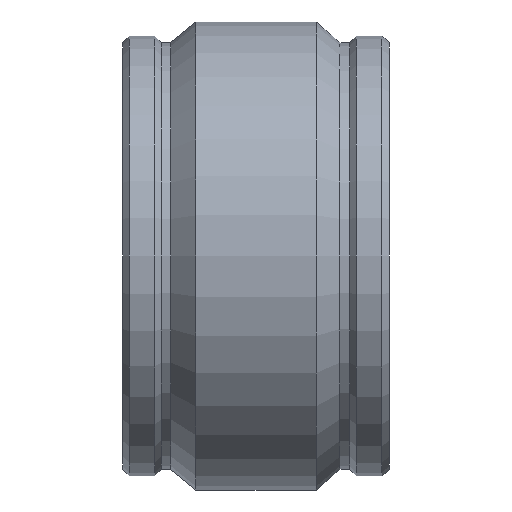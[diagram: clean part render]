
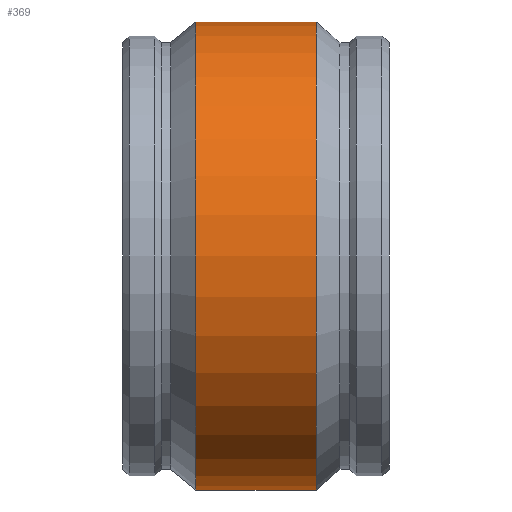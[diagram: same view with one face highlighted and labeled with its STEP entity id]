
A CAD part, front view. The second image highlights one B-rep face of the part: STEP entity #369.
In plain terms, the highlighted cylindrical face has radius 271.78 mm (diameter 543.56 mm), a full revolution.
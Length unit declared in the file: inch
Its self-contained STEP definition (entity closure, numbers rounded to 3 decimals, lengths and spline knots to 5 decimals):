
#17=CYLINDRICAL_SURFACE('',#423,10.7);
#28=LINE('',#646,#44);
#44=VECTOR('',#516,10.7);
#73=FACE_OUTER_BOUND('',#94,.T.);
#94=EDGE_LOOP('',(#281,#282,#283,#284,#285,#286));
#123=CIRCLE('',#421,10.7);
#124=CIRCLE('',#422,10.7);
#125=CIRCLE('',#424,10.7);
#126=CIRCLE('',#425,10.7);
#163=VERTEX_POINT('',#636);
#164=VERTEX_POINT('',#637);
#165=VERTEX_POINT('',#642);
#166=VERTEX_POINT('',#643);
#207=EDGE_CURVE('',#163,#164,#123,.T.);
#208=EDGE_CURVE('',#164,#163,#124,.T.);
#210=EDGE_CURVE('',#165,#166,#125,.T.);
#211=EDGE_CURVE('',#166,#165,#126,.T.);
#212=EDGE_CURVE('',#166,#164,#28,.T.);
#281=ORIENTED_EDGE('',*,*,#210,.F.);
#282=ORIENTED_EDGE('',*,*,#211,.F.);
#283=ORIENTED_EDGE('',*,*,#212,.T.);
#284=ORIENTED_EDGE('',*,*,#208,.T.);
#285=ORIENTED_EDGE('',*,*,#207,.T.);
#286=ORIENTED_EDGE('',*,*,#212,.F.);
#369=ADVANCED_FACE('',(#73),#17,.T.);
#421=AXIS2_PLACEMENT_3D('',#638,#505,#506);
#422=AXIS2_PLACEMENT_3D('',#639,#507,#508);
#423=AXIS2_PLACEMENT_3D('',#641,#510,#511);
#424=AXIS2_PLACEMENT_3D('',#644,#512,#513);
#425=AXIS2_PLACEMENT_3D('',#645,#514,#515);
#505=DIRECTION('center_axis',(1.,0.,0.));
#506=DIRECTION('ref_axis',(0.,0.,-1.));
#507=DIRECTION('center_axis',(1.,0.,0.));
#508=DIRECTION('ref_axis',(0.,0.,-1.));
#510=DIRECTION('center_axis',(1.,0.,0.));
#511=DIRECTION('ref_axis',(0.,1.,0.));
#512=DIRECTION('center_axis',(1.,0.,0.));
#513=DIRECTION('ref_axis',(0.,0.,-1.));
#514=DIRECTION('center_axis',(1.,0.,0.));
#515=DIRECTION('ref_axis',(0.,0.,-1.));
#516=DIRECTION('',(-1.,0.,0.));
#636=CARTESIAN_POINT('',(-2.745,10.7,0.));
#637=CARTESIAN_POINT('',(-2.745,-10.7,0.));
#638=CARTESIAN_POINT('Origin',(-2.745,0.,0.));
#639=CARTESIAN_POINT('Origin',(-2.745,0.,0.));
#641=CARTESIAN_POINT('Origin',(0.,0.,0.));
#642=CARTESIAN_POINT('',(2.745,10.7,0.));
#643=CARTESIAN_POINT('',(2.745,-10.7,0.));
#644=CARTESIAN_POINT('Origin',(2.745,0.,0.));
#645=CARTESIAN_POINT('Origin',(2.745,0.,0.));
#646=CARTESIAN_POINT('',(0.,-10.7,0.));
